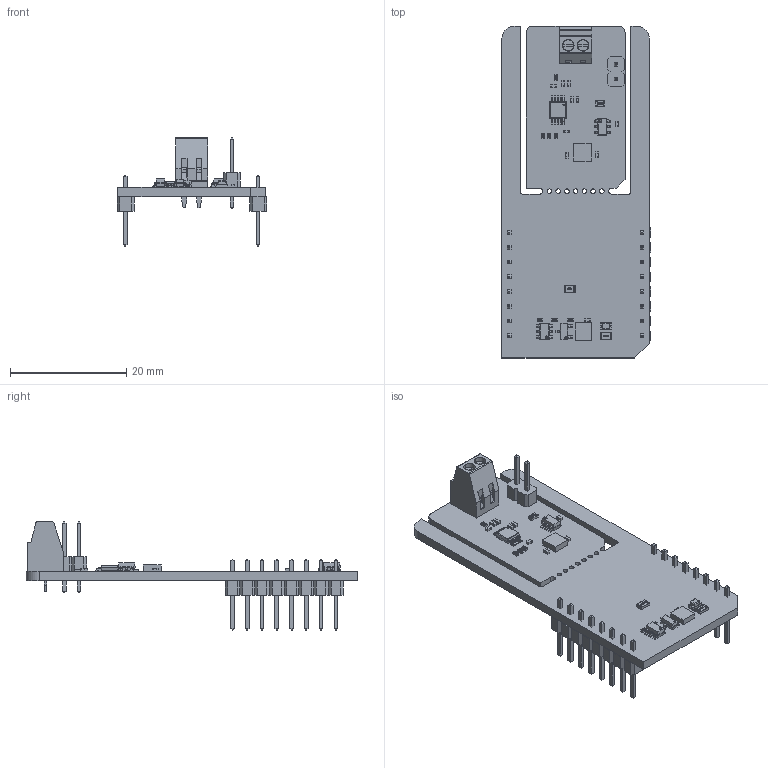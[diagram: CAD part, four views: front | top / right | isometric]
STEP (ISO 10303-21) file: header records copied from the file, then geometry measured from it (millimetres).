
FILE_DESCRIPTION(('Open CASCADE Model'),'2;1');
FILE_NAME('Open CASCADE Shape Model','2026-04-23T14:25:26',('Author'),( 'Open CASCADE'),'Open CASCADE STEP processor 7.5','Open CASCADE 7.5' ,'Unknown');
FILE_SCHEMA(('AUTOMOTIVE_DESIGN { 1 0 10303 214 1 1 1 1 }'));
Length unit declared in the file: millimetre
Products named in the file (53): PCB; Board; Open CASCADE STEP translator 7.5 3.1.1; JP1; User Library-R_0805; U5; 11869645312; Extruded; U4; User Library-SOT23-6-2; U3; AD5258BRMZ50; TB1; ScrewTerminal 2.54; R8; User Library-R_0402; R7; R6; R5; J1; User Library-Pin Header Strip 1x2; C10; User Library-SMD CAPACITOR0402; C9; C8; C7; C6; C5; C4; C3; C2; MBD1; Header 1x8; Free-Models; 1240637040; User_Library-PinHeaderX5-1_PinHeaderX5_Body_1; User_Library-PinHeaderX5-1_PinHeaderX5_Pins_1; JP2; User Library-R_0603; U2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
Assembly tree (71 placements, depth 7):
  PCB
    Board
      Open CASCADE STEP translator 7.5 3.1.1
    JP1
      User Library-R_0805
    U5
      11869645312
        Extruded
    U4
      User Library-SOT23-6-2
    U3
      AD5258BRMZ50
    TB1
      ScrewTerminal 2.54
    R8
      User Library-R_0402
    R7
      User Library-R_0402
    R6
      User Library-R_0402
    R5
      User Library-R_0402
    J1
      User Library-Pin Header Strip 1x2
    C10
      User Library-SMD CAPACITOR0402
    C9
      User Library-SMD CAPACITOR0402
    C8
      User Library-SMD CAPACITOR0402
    C7
      User Library-SMD CAPACITOR0402
    C6
      User Library-SMD CAPACITOR0402
    C5
      User Library-SMD CAPACITOR0402
    C4
      User Library-SMD CAPACITOR0402
    C3
      User Library-SMD CAPACITOR0402
    C2
      User Library-SMD CAPACITOR0402
    MBD1
      Header 1x8  x2
        PCB
          Free-Models
            1240637040  x2
              User_Library-PinHeaderX5-1_PinHeaderX5_Body_1
              User_Library-PinHeaderX5-1_PinHeaderX5_Pins_1
    JP2
      User Library-R_0603
    U2
      User Library-SOT23-6-2
    U1
      8727131360
        Extruded
    Q1
      SOT23-3
    R4
      User Library-R_0402
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Bounding box: 25.78 x 57.15 x 18.62 mm (x, y, z)
Volume: 2925.9 mm3; surface area: 5615.9 mm2
Topology: 84 solids, 84 shells, 2541 faces, 6343 edges, 3982 vertices
Faces by surface type: plane 1787, cylinder 345, bspline 311, sphere 98
Full cylindrical faces by diameter (mm): 0.8 x7
Entity records: 45166 total; most frequent: CARTESIAN_POINT 12978, ORIENTED_EDGE 5546, DIRECTION 5033, EDGE_CURVE 2773, LINE 2175, VECTOR 2175, VERTEX_POINT 1786, AXIS2_PLACEMENT_3D 1429
